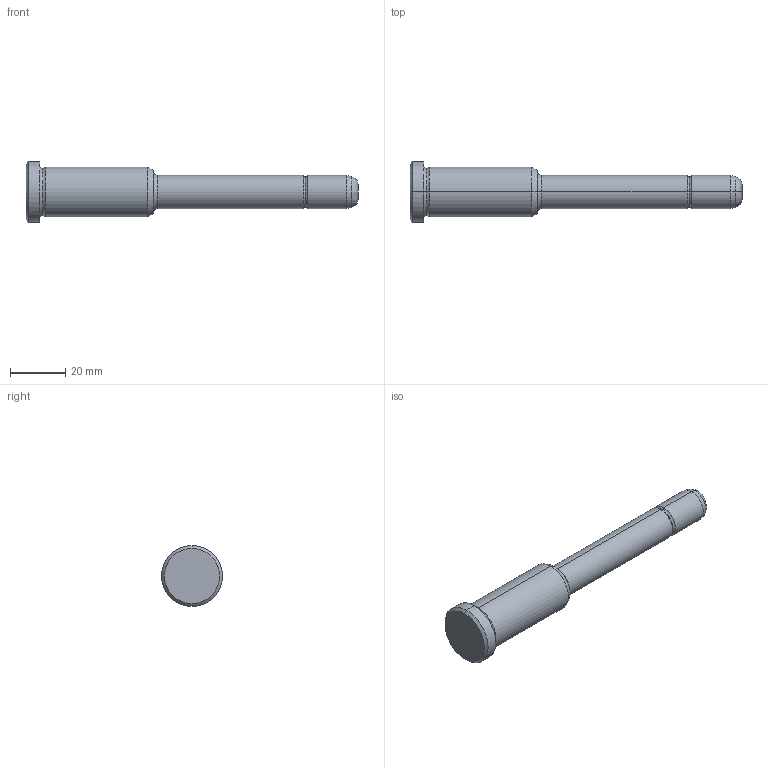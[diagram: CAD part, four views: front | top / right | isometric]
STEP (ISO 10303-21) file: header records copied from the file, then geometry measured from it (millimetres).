
FILE_DESCRIPTION(('CATIA V5 STEP Exchange'),'2;1');
FILE_NAME('C:\Users\Utente\Desktop\IO LAVORO\3D X SITO CF\X SITO\PLASTICA\351\351-12X46X120.stp','2021-08-17T13:17:40+00:00',('none'),('none'),'CATIA Version 5 Release 20 GA (IN-10)','CATIA V5 STEP AP203','none');
FILE_SCHEMA(('CONFIG_CONTROL_DESIGN'));
Length unit declared in the file: millimetre
Products named in the file (1): 351-12X46X120
Bounding box: 120 x 22 x 22 mm (x, y, z)
Volume: 20461.9 mm3; surface area: 6053.9 mm2
Topology: 1 solids, 1 shells, 30 faces, 86 edges, 60 vertices
Faces by surface type: torus 10, cylinder 8, cone 6, plane 4, bspline 2
Entity records: 1128 total; most frequent: CARTESIAN_POINT 343, ORIENTED_EDGE 172, DIRECTION 124, EDGE_CURVE 86, AXIS2_PLACEMENT_3D 83, VERTEX_POINT 60, CIRCLE 54, EDGE_LOOP 32
